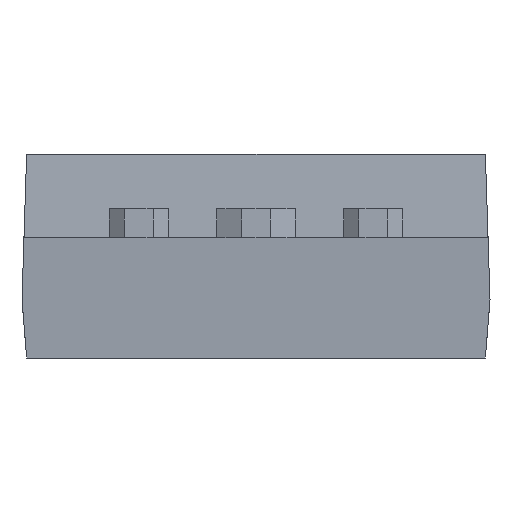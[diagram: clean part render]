
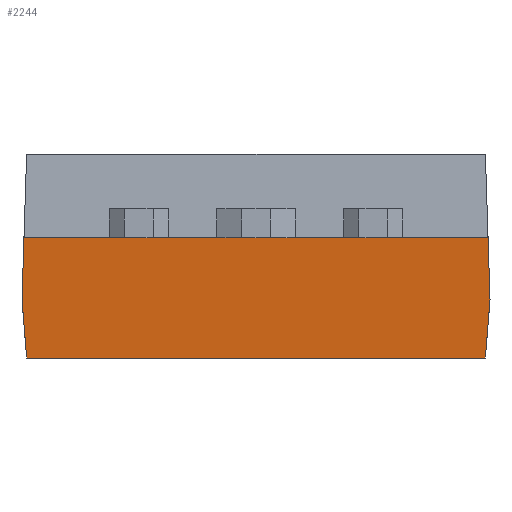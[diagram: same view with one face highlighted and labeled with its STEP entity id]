
A CAD part, front view. The second image highlights one B-rep face of the part: STEP entity #2244.
In plain terms, the highlighted planar face has unit normal (0, -0.997, -0.076).
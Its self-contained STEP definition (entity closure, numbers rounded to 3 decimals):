
#1621=CARTESIAN_POINT('',(4.97,-7.31,0.));
#1622=VERTEX_POINT('',#1621);
#1629=CARTESIAN_POINT('',(-4.97,-7.31,0.));
#1630=VERTEX_POINT('',#1629);
#1631=CARTESIAN_POINT('',(4.97,-7.31,0.));
#1632=DIRECTION('',(-1.,-0.,0.));
#1633=VECTOR('',#1632,9.94);
#1634=LINE('',#1631,#1633);
#1635=EDGE_CURVE('',#1622,#1630,#1634,.T.);
#1985=CARTESIAN_POINT('',(5.07,-7.407,1.26));
#1986=VERTEX_POINT('',#1985);
#1995=CARTESIAN_POINT('',(5.07,-7.407,1.26));
#1996=DIRECTION('',(-0.079,0.076,-0.994));
#1997=VECTOR('',#1996,1.268);
#1998=LINE('',#1995,#1997);
#1999=EDGE_CURVE('',#1986,#1622,#1998,.T.);
#2050=CARTESIAN_POINT('',(5.027,-7.51,2.61));
#2051=VERTEX_POINT('',#2050);
#2058=CARTESIAN_POINT('',(5.027,-7.51,2.61));
#2059=DIRECTION('',(0.032,0.076,-0.997));
#2060=VECTOR('',#2059,1.355);
#2061=LINE('',#2058,#2060);
#2062=EDGE_CURVE('',#2051,#1986,#2061,.T.);
#2076=CARTESIAN_POINT('',(-5.07,-7.407,1.26));
#2077=VERTEX_POINT('',#2076);
#2078=CARTESIAN_POINT('',(-5.027,-7.51,2.61));
#2079=VERTEX_POINT('',#2078);
#2080=CARTESIAN_POINT('',(-5.07,-7.407,1.26));
#2081=DIRECTION('',(0.032,-0.076,0.997));
#2082=VECTOR('',#2081,1.355);
#2083=LINE('',#2080,#2082);
#2084=EDGE_CURVE('',#2077,#2079,#2083,.T.);
#2111=CARTESIAN_POINT('',(-4.97,-7.31,0.));
#2112=DIRECTION('',(-0.079,-0.076,0.994));
#2113=VECTOR('',#2112,1.268);
#2114=LINE('',#2111,#2113);
#2115=EDGE_CURVE('',#1630,#2077,#2114,.T.);
#2226=CARTESIAN_POINT('',(0.,-7.31,0.));
#2227=DIRECTION('',(0.,-0.997,-0.076));
#2228=DIRECTION('',(1.,0.,0.));
#2229=AXIS2_PLACEMENT_3D('',#2226,#2227,#2228);
#2230=PLANE('',#2229);
#2231=ORIENTED_EDGE('',*,*,#2062,.F.);
#2232=CARTESIAN_POINT('',(-5.027,-7.51,2.61));
#2233=DIRECTION('',(1.,0.,0.));
#2234=VECTOR('',#2233,10.055);
#2235=LINE('',#2232,#2234);
#2236=EDGE_CURVE('',#2079,#2051,#2235,.T.);
#2237=ORIENTED_EDGE('',*,*,#2236,.F.);
#2238=ORIENTED_EDGE('',*,*,#2084,.F.);
#2239=ORIENTED_EDGE('',*,*,#2115,.F.);
#2240=ORIENTED_EDGE('',*,*,#1635,.F.);
#2241=ORIENTED_EDGE('',*,*,#1999,.F.);
#2242=EDGE_LOOP('',(#2231,#2237,#2238,#2239,#2240,#2241));
#2243=FACE_BOUND('',#2242,.T.);
#2244=ADVANCED_FACE('',(#2243),#2230,.T.);
